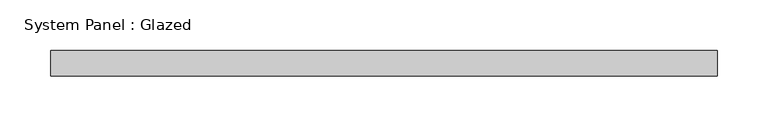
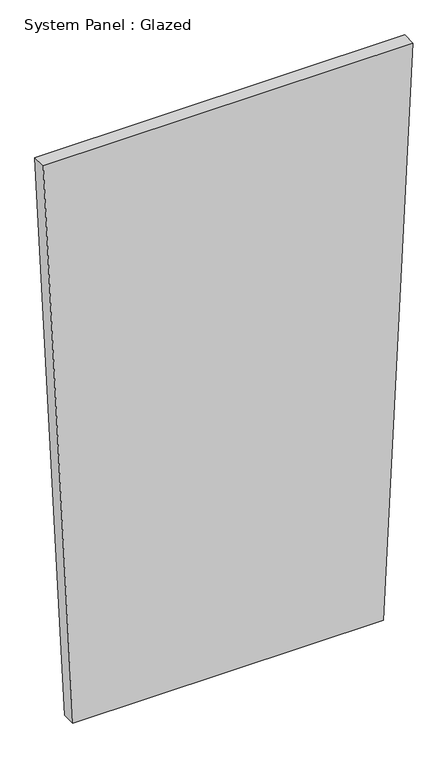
"""IFC4 building model written with IfcOpenShell, lengths in millimetres: plate geometry, System Panel : Glazed."""

from ifc_helpers import new_model, si_unit, frame, origin, place, context, project, spatial, polyline, outline, extrude, source, transform, mapped, element, save


def system_panel_glazed_0369cbda(model_context):
    return source(origin(), model_context, "Body", "SweptSolid", [
        extrude(outline(polyline([(0.0, -276.0655036), (0.0, 276.0655036), (1065.4922492, 328.8718187), (1065.4922492, -328.8718187), (0.0, -276.0655036)])), frame((0.0, -44.45, 0.0), z_axis=(0.0, 1.0, 0.0), x_axis=(0.0, 0.0, 1.0)), (0.0, 0.0, 1.0), 25.4),
    ])


if __name__ == "__main__":
    model = new_model("IFC4")
    model_context = context("Model", 3, world=origin())
    ifc_project = project(units=[si_unit("LENGTHUNIT", "METRE", prefix="MILLI")], contexts=[model_context])
    site = spatial("IfcSite", under=ifc_project)
    building = spatial("IfcBuilding", under=site)
    placement = place(None, origin())
    system_panel_glazed_shape = system_panel_glazed_0369cbda(model_context)
    element("IfcPlate", 1, ObjectType="System Panel : Glazed", at=placement, inside=building, context=model_context, shape_type="MappedRepresentation", body=[
        mapped(system_panel_glazed_shape, transform((0.0, 0.0, 0.0), x_axis=(1.0, 0.0, 0.0), y_axis=(0.0, 1.0, 0.0), z_axis=(0.0, 0.0, 1.0))),
    ])
    save(model, "model.ifc")
